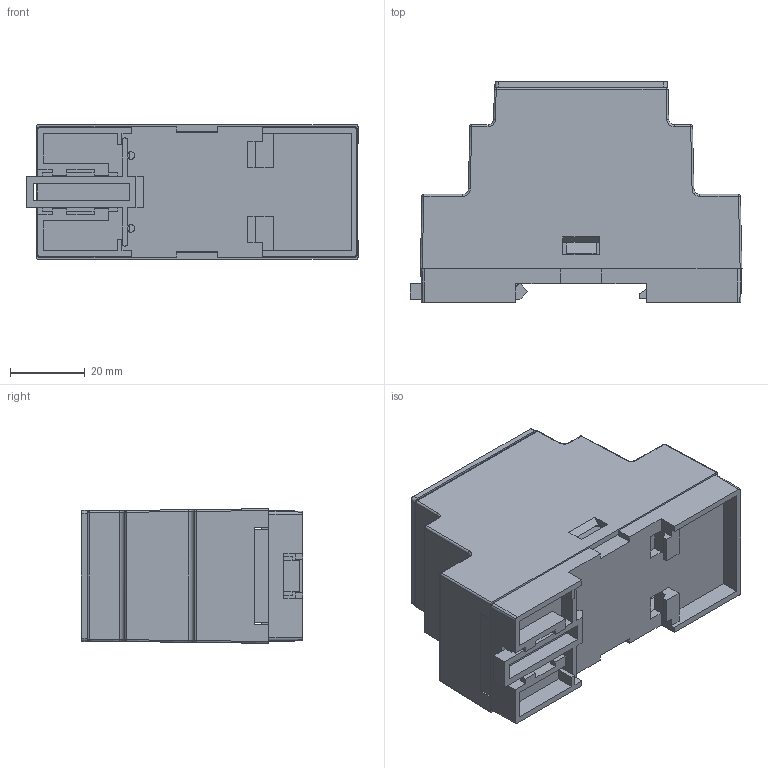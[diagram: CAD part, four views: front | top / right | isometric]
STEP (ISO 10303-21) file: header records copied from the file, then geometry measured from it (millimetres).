
FILE_DESCRIPTION (( 'STEP AP203' ), '1' );
FILE_NAME ('RT-102-A.STEP', '2025-03-12T05:23:48', ( '' ), ( '' ), 'SwSTEP 2.0', 'SolidWorks 2021', '' );
FILE_SCHEMA (( 'CONFIG_CONTROL_DESIGN' ));
Length unit declared in the file: millimetre
Products named in the file (5): RT-102-P-2; RT-102-P-3; RT-102-A; A-79; RT-102-P-6_RT-102-A
Assembly tree (4 placements, depth 2):
  RT-102-A
    RT-102-P-6_RT-102-A
    RT-102-P-3
    RT-102-P-2
    A-79
Bounding box: 88.76 x 59.1 x 36 mm (x, y, z)
Volume: 33844.8 mm3; surface area: 42413.3 mm2
Topology: 4 solids, 4 shells, 442 faces, 1240 edges, 794 vertices
Faces by surface type: plane 344, cylinder 50, bspline 28, sphere 12, cone 8
Entity records: 15223 total; most frequent: CARTESIAN_POINT 3491, ORIENTED_EDGE 2456, DIRECTION 2146, EDGE_CURVE 1228, LINE 1056, VECTOR 1056, VERTEX_POINT 794, AXIS2_PLACEMENT_3D 545
